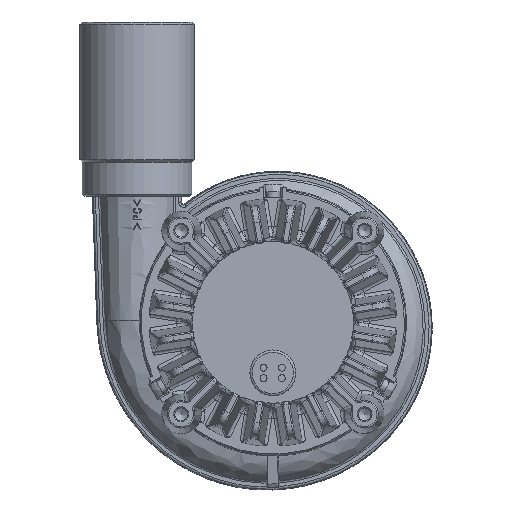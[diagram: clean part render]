
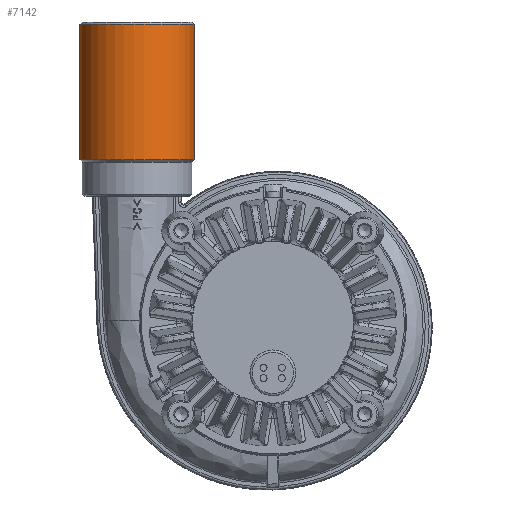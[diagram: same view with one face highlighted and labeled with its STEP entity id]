
A CAD part, front view. The second image highlights one B-rep face of the part: STEP entity #7142.
In plain terms, the highlighted cylindrical face has radius 12.5 mm (diameter 25 mm), a full revolution.
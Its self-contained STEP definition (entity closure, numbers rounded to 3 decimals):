
#7142=ADVANCED_FACE('',(#9015,#9016),#8648,.T.);
#8648=CYLINDRICAL_SURFACE('',#24911,12.5);
#9015=FACE_BOUND('',#9205,.T.);
#9016=FACE_BOUND('',#9206,.T.);
#9205=EDGE_LOOP('',(#10822));
#9206=EDGE_LOOP('',(#10823));
#10822=ORIENTED_EDGE('',*,*,#20628,.T.);
#10823=ORIENTED_EDGE('',*,*,#20627,.T.);
#18289=VERTEX_POINT('',#31634);
#18290=VERTEX_POINT('',#31637);
#20627=EDGE_CURVE('',#18289,#18289,#24358,.T.);
#20628=EDGE_CURVE('',#18290,#18290,#24359,.T.);
#24358=CIRCLE('',#24908,12.5);
#24359=CIRCLE('',#24910,12.5);
#24908=AXIS2_PLACEMENT_3D('',#31633,#26735,#26736);
#24910=AXIS2_PLACEMENT_3D('',#31636,#26739,#26740);
#24911=AXIS2_PLACEMENT_3D('',#31638,#26741,#26742);
#26735=DIRECTION('',(0.,0.,1.));
#26736=DIRECTION('',(0.547,0.837,0.));
#26739=DIRECTION('',(0.,0.,-1.));
#26740=DIRECTION('',(-0.547,-0.837,0.));
#26741=DIRECTION('',(0.,0.,1.));
#26742=DIRECTION('',(0.547,0.837,0.));
#31633=CARTESIAN_POINT('',(-29.579,63.1,35.496));
#31634=CARTESIAN_POINT('',(-22.742,73.565,35.496));
#31636=CARTESIAN_POINT('',(-29.579,63.1,64.996));
#31637=CARTESIAN_POINT('',(-36.416,52.635,64.996));
#31638=CARTESIAN_POINT('',(-29.579,63.1,32.996));
